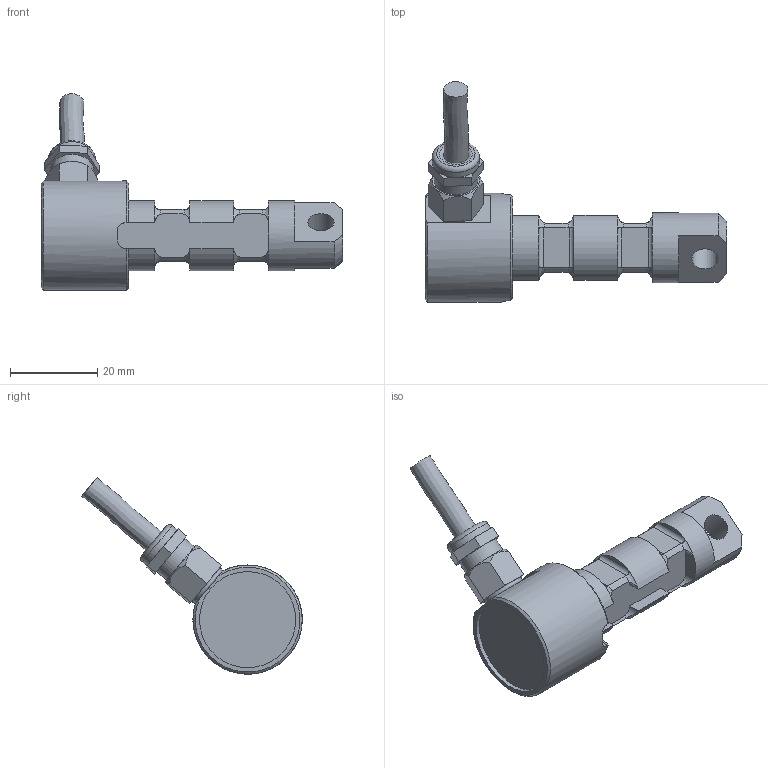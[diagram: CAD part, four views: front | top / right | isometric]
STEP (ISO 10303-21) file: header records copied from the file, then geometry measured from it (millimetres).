
FILE_DESCRIPTION(/* description */ ('Alibre Inc.'),/* implementation_level */ '2;1');
FILE_NAME(/* name */ 'export0',/* time_stamp */ '2012-06-04T14:40:00+02:00',/* author */ (''),/* organization */ (''),/* preprocessor_version */ 'ST-DEVELOPER v10',/* originating_system */ 'Alibre',/* authorisation */ '');
FILE_SCHEMA (('CONFIG_CONTROL_DESIGN'));
Length unit declared in the file: centimetre
Products named in the file (6): ID_1; ID_2; ID_3
Bounding box: 69 x 50.45 x 44.96 mm (x, y, z)
Volume: 17421.1 mm3; surface area: 7270.4 mm2
Topology: 4 solids, 4 shells, 143 faces, 354 edges, 223 vertices
Faces by surface type: plane 66, cylinder 49, torus 19, cone 8, bspline 1
Full cylindrical faces by diameter (mm): 5.5 x1, 6 x1, 6.917 x1, 8 x1, 10 x1, 10.8 x1, 16 x1, 22 x1, 25 x1
Entity records: 6925 total; most frequent: CARTESIAN_POINT 3437, ORIENTED_EDGE 670, DIRECTION 461, EDGE_CURVE 335, VERTEX_POINT 220, AXIS2_PLACEMENT_3D 188, FACE_BOUND 167, EDGE_LOOP 166
